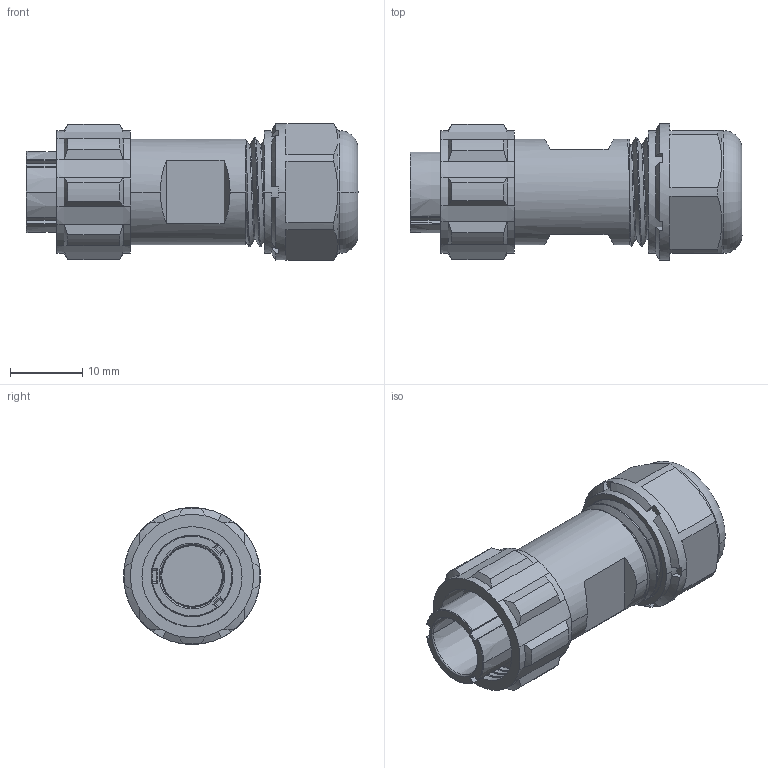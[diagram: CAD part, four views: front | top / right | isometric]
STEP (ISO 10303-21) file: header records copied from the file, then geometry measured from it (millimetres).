
FILE_DESCRIPTION((''),'2;1');
FILE_NAME('SP1310-P3II','2021-11-01T',('Administrator'),(''),'CREO PARAMETRIC BY PTC INC, 2016130','CREO PARAMETRIC BY PTC INC, 2016130','');
FILE_SCHEMA(('AUTOMOTIVE_DESIGN { 1 0 10303 214 1 1 1 1 }'));
Length unit declared in the file: millimetre
Products named in the file (1): SP1310-P3II
Bounding box: 46.1 x 19 x 19 mm (x, y, z)
Volume: 8278.1 mm3; surface area: 3751.8 mm2
Topology: 1 solids, 1 shells, 221 faces, 594 edges, 382 vertices
Faces by surface type: plane 73, cone 55, cylinder 54, bspline 21, torus 14, sphere 4
Entity records: 8848 total; most frequent: CARTESIAN_POINT 3410, ORIENTED_EDGE 1180, DIRECTION 1086, EDGE_CURVE 590, AXIS2_PLACEMENT_3D 443, VERTEX_POINT 382, CIRCLE 243, EDGE_LOOP 232
